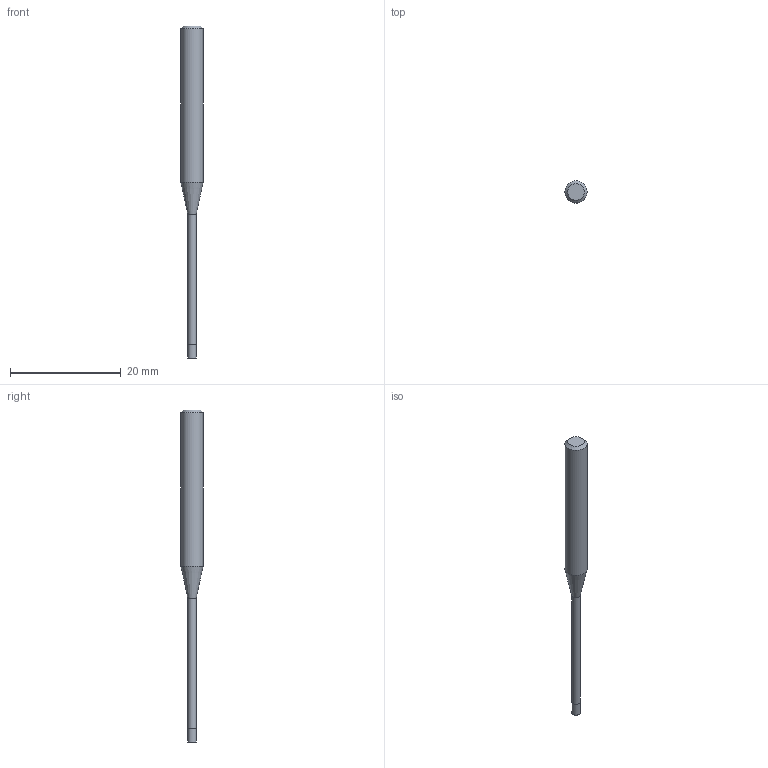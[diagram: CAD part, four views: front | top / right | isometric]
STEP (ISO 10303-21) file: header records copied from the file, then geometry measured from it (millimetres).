
FILE_DESCRIPTION((''),'2;1');
FILE_NAME('C:\Users\nsx150\AppData\Local\Temp\Mastercam 2021\17T8Q8S9EB\TEMP.step','2021-04-21T14:27:14',(''),(''),'STEP Write','Mastercam 2021 ... CNC Software, Inc.','');
FILE_SCHEMA(('AUTOMOTIVE_DESIGN'));
Length unit declared in the file: millimetre
Products named in the file (1): None
Bounding box: 4 x 4 x 60 mm (x, y, z)
Volume: 439.9 mm3; surface area: 547.7 mm2
Topology: 2 solids, 2 shells, 9 faces, 12 edges, 7 vertices
Faces by surface type: plane 4, cylinder 3, cone 2
Full cylindrical faces by diameter (mm): 1.55 x1, 1.6 x1, 4 x1
Entity records: 211 total; most frequent: DIRECTION 36, CARTESIAN_POINT 25, AXIS2_PLACEMENT_3D 18, ORIENTED_EDGE 14, EDGE_LOOP 14, STYLED_ITEM 12, ADVANCED_FACE 9, FACE_BOUND 8
